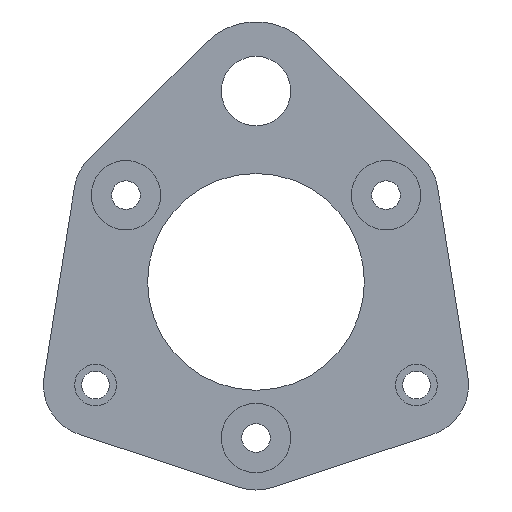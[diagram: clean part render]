
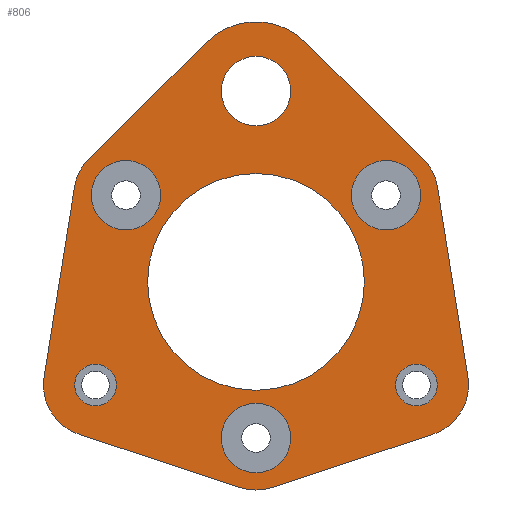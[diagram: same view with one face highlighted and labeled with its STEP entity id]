
A CAD part, front view. The second image highlights one B-rep face of the part: STEP entity #806.
In plain terms, the highlighted planar face has unit normal (0, -1, 0).
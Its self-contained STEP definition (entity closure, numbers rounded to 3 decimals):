
#45=FACE_BOUND('',#181,.T.);
#46=FACE_BOUND('',#182,.T.);
#47=FACE_BOUND('',#183,.T.);
#48=FACE_BOUND('',#184,.T.);
#49=FACE_BOUND('',#185,.T.);
#50=FACE_BOUND('',#186,.T.);
#51=FACE_BOUND('',#187,.T.);
#70=PLANE('',#926);
#119=FACE_OUTER_BOUND('',#180,.T.);
#180=EDGE_LOOP('',(#727,#728,#729,#730,#731,#732,#733,#734,#735,#736,#737,
#738));
#181=EDGE_LOOP('',(#739));
#182=EDGE_LOOP('',(#740));
#183=EDGE_LOOP('',(#741));
#184=EDGE_LOOP('',(#742));
#185=EDGE_LOOP('',(#743));
#186=EDGE_LOOP('',(#744));
#187=EDGE_LOOP('',(#745));
#217=LINE('',#1288,#277);
#220=LINE('',#1296,#280);
#223=LINE('',#1304,#283);
#241=LINE('',#1388,#301);
#245=LINE('',#1397,#305);
#247=LINE('',#1403,#307);
#277=VECTOR('',#1036,10.);
#280=VECTOR('',#1045,10.);
#283=VECTOR('',#1054,10.);
#301=VECTOR('',#1158,10.);
#305=VECTOR('',#1168,10.);
#307=VECTOR('',#1176,10.);
#322=CIRCLE('',#847,12.5);
#329=CIRCLE('',#867,6.);
#330=CIRCLE('',#870,6.);
#331=CIRCLE('',#873,8.);
#343=CIRCLE('',#897,4.);
#345=CIRCLE('',#901,4.);
#347=CIRCLE('',#905,4.);
#349=CIRCLE('',#909,2.4);
#351=CIRCLE('',#913,2.4);
#352=CIRCLE('',#916,4.);
#353=CIRCLE('',#919,6.);
#354=CIRCLE('',#922,6.);
#355=CIRCLE('',#925,6.);
#376=VERTEX_POINT('',#1228);
#389=VERTEX_POINT('',#1280);
#390=VERTEX_POINT('',#1282);
#391=VERTEX_POINT('',#1286);
#392=VERTEX_POINT('',#1290);
#393=VERTEX_POINT('',#1294);
#394=VERTEX_POINT('',#1298);
#395=VERTEX_POINT('',#1302);
#407=VERTEX_POINT('',#1348);
#409=VERTEX_POINT('',#1355);
#411=VERTEX_POINT('',#1362);
#413=VERTEX_POINT('',#1369);
#415=VERTEX_POINT('',#1376);
#416=VERTEX_POINT('',#1381);
#417=VERTEX_POINT('',#1385);
#418=VERTEX_POINT('',#1387);
#419=VERTEX_POINT('',#1391);
#420=VERTEX_POINT('',#1395);
#421=VERTEX_POINT('',#1399);
#444=EDGE_CURVE('',#376,#376,#322,.T.);
#470=EDGE_CURVE('',#389,#390,#329,.T.);
#473=EDGE_CURVE('',#391,#389,#217,.T.);
#475=EDGE_CURVE('',#392,#391,#330,.T.);
#477=EDGE_CURVE('',#393,#392,#220,.T.);
#479=EDGE_CURVE('',#394,#393,#331,.T.);
#481=EDGE_CURVE('',#395,#394,#223,.T.);
#504=EDGE_CURVE('',#407,#407,#343,.T.);
#507=EDGE_CURVE('',#409,#409,#345,.T.);
#510=EDGE_CURVE('',#411,#411,#347,.T.);
#513=EDGE_CURVE('',#413,#413,#349,.T.);
#516=EDGE_CURVE('',#415,#415,#351,.T.);
#518=EDGE_CURVE('',#416,#416,#352,.T.);
#520=EDGE_CURVE('',#417,#418,#241,.T.);
#523=EDGE_CURVE('',#419,#417,#353,.T.);
#525=EDGE_CURVE('',#420,#419,#245,.T.);
#527=EDGE_CURVE('',#421,#420,#354,.T.);
#528=EDGE_CURVE('',#390,#421,#247,.T.);
#529=EDGE_CURVE('',#418,#395,#355,.T.);
#727=ORIENTED_EDGE('',*,*,#529,.F.);
#728=ORIENTED_EDGE('',*,*,#520,.F.);
#729=ORIENTED_EDGE('',*,*,#523,.F.);
#730=ORIENTED_EDGE('',*,*,#525,.F.);
#731=ORIENTED_EDGE('',*,*,#527,.F.);
#732=ORIENTED_EDGE('',*,*,#528,.F.);
#733=ORIENTED_EDGE('',*,*,#470,.F.);
#734=ORIENTED_EDGE('',*,*,#473,.F.);
#735=ORIENTED_EDGE('',*,*,#475,.F.);
#736=ORIENTED_EDGE('',*,*,#477,.F.);
#737=ORIENTED_EDGE('',*,*,#479,.F.);
#738=ORIENTED_EDGE('',*,*,#481,.F.);
#739=ORIENTED_EDGE('',*,*,#504,.T.);
#740=ORIENTED_EDGE('',*,*,#507,.T.);
#741=ORIENTED_EDGE('',*,*,#510,.T.);
#742=ORIENTED_EDGE('',*,*,#513,.T.);
#743=ORIENTED_EDGE('',*,*,#516,.T.);
#744=ORIENTED_EDGE('',*,*,#444,.F.);
#745=ORIENTED_EDGE('',*,*,#518,.F.);
#806=ADVANCED_FACE('',(#119,#45,#46,#47,#48,#49,#50,#51),#70,.F.);
#847=AXIS2_PLACEMENT_3D('',#1230,#971,#972);
#867=AXIS2_PLACEMENT_3D('',#1283,#1030,#1031);
#870=AXIS2_PLACEMENT_3D('',#1292,#1040,#1041);
#873=AXIS2_PLACEMENT_3D('',#1300,#1049,#1050);
#897=AXIS2_PLACEMENT_3D('',#1350,#1110,#1111);
#901=AXIS2_PLACEMENT_3D('',#1357,#1119,#1120);
#905=AXIS2_PLACEMENT_3D('',#1364,#1128,#1129);
#909=AXIS2_PLACEMENT_3D('',#1371,#1137,#1138);
#913=AXIS2_PLACEMENT_3D('',#1378,#1146,#1147);
#916=AXIS2_PLACEMENT_3D('',#1383,#1153,#1154);
#919=AXIS2_PLACEMENT_3D('',#1393,#1163,#1164);
#922=AXIS2_PLACEMENT_3D('',#1401,#1172,#1173);
#925=AXIS2_PLACEMENT_3D('',#1405,#1179,#1180);
#926=AXIS2_PLACEMENT_3D('',#1406,#1181,#1182);
#971=DIRECTION('center_axis',(0.,-1.,0.));
#972=DIRECTION('ref_axis',(1.,0.,0.));
#1030=DIRECTION('center_axis',(0.,1.,0.));
#1031=DIRECTION('ref_axis',(0.987,0.,0.158));
#1036=DIRECTION('',(0.158,0.,-0.987));
#1040=DIRECTION('center_axis',(0.,1.,0.));
#1041=DIRECTION('ref_axis',(0.703,0.,0.712));
#1045=DIRECTION('',(0.712,0.,-0.703));
#1049=DIRECTION('center_axis',(0.,1.,0.));
#1050=DIRECTION('ref_axis',(-0.703,0.,0.712));
#1054=DIRECTION('',(0.712,0.,0.703));
#1110=DIRECTION('center_axis',(0.,1.,0.));
#1111=DIRECTION('ref_axis',(-1.,0.,0.));
#1119=DIRECTION('center_axis',(0.,1.,0.));
#1120=DIRECTION('ref_axis',(-1.,0.,0.));
#1128=DIRECTION('center_axis',(0.,1.,0.));
#1129=DIRECTION('ref_axis',(-1.,0.,0.));
#1137=DIRECTION('center_axis',(0.,1.,0.));
#1138=DIRECTION('ref_axis',(-1.,0.,0.));
#1146=DIRECTION('center_axis',(0.,1.,0.));
#1147=DIRECTION('ref_axis',(-1.,0.,0.));
#1153=DIRECTION('center_axis',(0.,-1.,0.));
#1154=DIRECTION('ref_axis',(1.,0.,0.));
#1158=DIRECTION('',(0.158,0.,0.987));
#1163=DIRECTION('center_axis',(0.,1.,0.));
#1164=DIRECTION('ref_axis',(-0.313,0.,-0.95));
#1168=DIRECTION('',(-0.95,0.,0.313));
#1172=DIRECTION('center_axis',(0.,1.,0.));
#1173=DIRECTION('ref_axis',(0.313,0.,-0.95));
#1176=DIRECTION('',(-0.95,0.,-0.313));
#1179=DIRECTION('center_axis',(0.,1.,0.));
#1180=DIRECTION('ref_axis',(-0.987,0.,0.158));
#1181=DIRECTION('center_axis',(0.,1.,0.));
#1182=DIRECTION('ref_axis',(0.,0.,1.));
#1228=CARTESIAN_POINT('',(-12.5,0.,0.));
#1230=CARTESIAN_POINT('Origin',(0.,0.,0.));
#1280=CARTESIAN_POINT('',(24.432,0.,-10.945));
#1282=CARTESIAN_POINT('',(20.387,0.,-17.592));
#1283=CARTESIAN_POINT('Origin',(18.508,0.,-11.894));
#1286=CARTESIAN_POINT('',(20.924,0.,10.949));
#1288=CARTESIAN_POINT('',(20.924,0.,10.949));
#1290=CARTESIAN_POINT('',(19.216,0.,14.27));
#1292=CARTESIAN_POINT('Origin',(15.,0.,10.));
#1294=CARTESIAN_POINT('',(5.621,0.,27.693));
#1296=CARTESIAN_POINT('',(5.621,0.,27.693));
#1298=CARTESIAN_POINT('',(-5.621,0.,27.693));
#1300=CARTESIAN_POINT('Origin',(0.,0.,22.));
#1302=CARTESIAN_POINT('',(-19.216,0.,14.27));
#1304=CARTESIAN_POINT('',(-19.216,0.,14.27));
#1348=CARTESIAN_POINT('',(-11.,0.,10.));
#1350=CARTESIAN_POINT('Origin',(-15.,0.,10.));
#1355=CARTESIAN_POINT('',(4.,0.,-18.));
#1357=CARTESIAN_POINT('Origin',(0.,0.,-18.));
#1362=CARTESIAN_POINT('',(19.,0.,10.));
#1364=CARTESIAN_POINT('Origin',(15.,0.,10.));
#1369=CARTESIAN_POINT('',(-16.108,0.,-11.894));
#1371=CARTESIAN_POINT('Origin',(-18.508,0.,-11.894));
#1376=CARTESIAN_POINT('',(20.908,0.,-11.894));
#1378=CARTESIAN_POINT('Origin',(18.508,0.,-11.894));
#1381=CARTESIAN_POINT('',(-4.,0.,22.));
#1383=CARTESIAN_POINT('Origin',(0.,0.,22.));
#1385=CARTESIAN_POINT('',(-24.432,0.,-10.945));
#1387=CARTESIAN_POINT('',(-20.924,0.,10.949));
#1388=CARTESIAN_POINT('',(-24.432,0.,-10.945));
#1391=CARTESIAN_POINT('',(-20.387,0.,-17.592));
#1393=CARTESIAN_POINT('Origin',(-18.508,0.,-11.894));
#1395=CARTESIAN_POINT('',(-1.88,0.,-23.698));
#1397=CARTESIAN_POINT('',(-1.88,0.,-23.698));
#1399=CARTESIAN_POINT('',(1.88,0.,-23.698));
#1401=CARTESIAN_POINT('Origin',(0.,0.,-18.));
#1403=CARTESIAN_POINT('',(20.387,0.,-17.592));
#1405=CARTESIAN_POINT('Origin',(-15.,0.,10.));
#1406=CARTESIAN_POINT('Origin',(0.,0.,3.));
